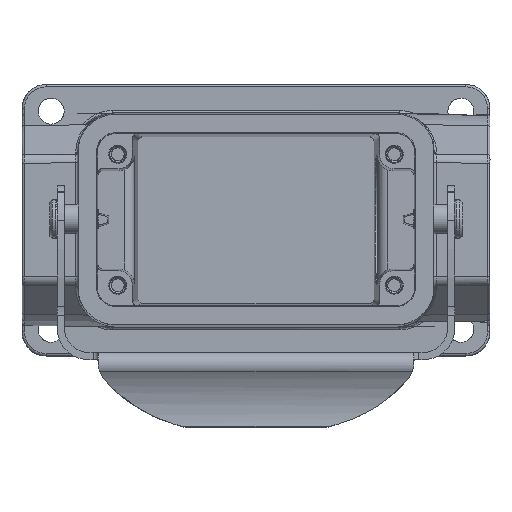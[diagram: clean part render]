
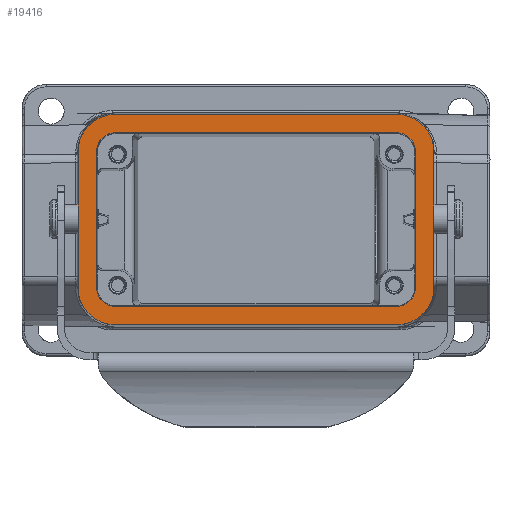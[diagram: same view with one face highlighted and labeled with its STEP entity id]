
A CAD part, top view. The second image highlights one B-rep face of the part: STEP entity #19416.
In plain terms, the highlighted planar face has unit normal (0, 0, 1).
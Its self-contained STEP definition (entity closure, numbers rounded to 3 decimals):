
#21 = DIRECTION ( 'NONE',  ( 0., 0., -1. ) ) ;
#239 = DIRECTION ( 'NONE',  ( 1., 0., 0. ) ) ;
#307 = ORIENTED_EDGE ( 'NONE', *, *, #10095, .T. ) ;
#401 = VECTOR ( 'NONE', #7460, 1000. ) ;
#400 = DIRECTION ( 'NONE',  ( 1., 0., 0. ) ) ;
#457 = DIRECTION ( 'NONE',  ( 0., -1., 0. ) ) ;
#578 = CARTESIAN_POINT ( 'NONE',  ( -32.9, 14., 27.7 ) ) ;
#580 = ORIENTED_EDGE ( 'NONE', *, *, #17037, .T. ) ;
#594 = DIRECTION ( 'NONE',  ( 0., 0., 1. ) ) ;
#649 = VERTEX_POINT ( 'NONE', #4194 ) ;
#702 = ORIENTED_EDGE ( 'NONE', *, *, #3819, .T. ) ;
#849 = LINE ( 'NONE', #3367, #9750 ) ;
#1048 = DIRECTION ( 'NONE',  ( 0., 1., 0. ) ) ;
#1149 = DIRECTION ( 'NONE',  ( 0., 0., -1. ) ) ;
#1273 = FACE_BOUND ( 'NONE', #5963, .T. ) ;
#1794 = CIRCLE ( 'NONE', #12595, 7.7 ) ;
#1875 = EDGE_CURVE ( 'NONE', #7598, #15227, #2472, .T. ) ;
#2100 = EDGE_CURVE ( 'NONE', #14176, #649, #5177, .T. ) ;
#2171 = VERTEX_POINT ( 'NONE', #16543 ) ;
#2266 = CARTESIAN_POINT ( 'NONE',  ( -29., -21.7, 27.7 ) ) ;
#2443 = CARTESIAN_POINT ( 'NONE',  ( 29., -17.9, 27.7 ) ) ;
#2472 = CIRCLE ( 'NONE', #12401, 7.7 ) ;
#2716 = VERTEX_POINT ( 'NONE', #16915 ) ;
#2816 = ORIENTED_EDGE ( 'NONE', *, *, #9310, .T. ) ;
#2993 = CARTESIAN_POINT ( 'NONE',  ( 29., 21.7, 27.7 ) ) ;
#3105 = CARTESIAN_POINT ( 'NONE',  ( -29., 21.7, 27.7 ) ) ;
#3367 = CARTESIAN_POINT ( 'NONE',  ( 36.7, 14., 27.7 ) ) ;
#3819 = EDGE_CURVE ( 'NONE', #18376, #16583, #6890, .T. ) ;
#4194 = CARTESIAN_POINT ( 'NONE',  ( 36.7, -14., 27.7 ) ) ;
#4546 = VERTEX_POINT ( 'NONE', #2443 ) ;
#4582 = ORIENTED_EDGE ( 'NONE', *, *, #19819, .T. ) ;
#4809 = AXIS2_PLACEMENT_3D ( 'NONE', #9312, #21, #18960 ) ;
#5016 = CARTESIAN_POINT ( 'NONE',  ( 29., 17.9, 27.7 ) ) ;
#5177 = CIRCLE ( 'NONE', #5614, 7.7 ) ;
#5366 = ORIENTED_EDGE ( 'NONE', *, *, #12666, .T. ) ;
#5377 = CARTESIAN_POINT ( 'NONE',  ( -32.9, -14., 27.7 ) ) ;
#5426 = VERTEX_POINT ( 'NONE', #2993 ) ;
#5511 = LINE ( 'NONE', #578, #12472 ) ;
#5614 = AXIS2_PLACEMENT_3D ( 'NONE', #10074, #594, #6941 ) ;
#5769 = CARTESIAN_POINT ( 'NONE',  ( 29., -14., 27.7 ) ) ;
#5963 = EDGE_LOOP ( 'NONE', ( #307, #702, #580, #4582, #12267, #10540, #19870, #10389 ) ) ;
#6123 = LINE ( 'NONE', #8409, #11345 ) ;
#6410 = LINE ( 'NONE', #17324, #15150 ) ;
#6583 = ORIENTED_EDGE ( 'NONE', *, *, #12189, .T. ) ;
#6662 = VERTEX_POINT ( 'NONE', #11335 ) ;
#6713 = DIRECTION ( 'NONE',  ( 0., 0., -1. ) ) ;
#6759 = ORIENTED_EDGE ( 'NONE', *, *, #2100, .T. ) ;
#6787 = VECTOR ( 'NONE', #457, 1000. ) ;
#6890 = CIRCLE ( 'NONE', #4809, 3.9 ) ;
#6941 = DIRECTION ( 'NONE',  ( 1., 0., 0. ) ) ;
#6977 = CARTESIAN_POINT ( 'NONE',  ( -29., -17.9, 27.7 ) ) ;
#7054 = EDGE_CURVE ( 'NONE', #6662, #4546, #20542, .T. ) ;
#7082 = ORIENTED_EDGE ( 'NONE', *, *, #16364, .T. ) ;
#7186 = CARTESIAN_POINT ( 'NONE',  ( 32.9, 14., 27.7 ) ) ;
#7344 = VERTEX_POINT ( 'NONE', #11590 ) ;
#7398 = DIRECTION ( 'NONE',  ( 1., 0., 0. ) ) ;
#7460 = DIRECTION ( 'NONE',  ( 0., -1., 0. ) ) ;
#7474 = DIRECTION ( 'NONE',  ( 0., 0., -1. ) ) ;
#7598 = VERTEX_POINT ( 'NONE', #13606 ) ;
#7678 = CARTESIAN_POINT ( 'NONE',  ( 29., 14., 27.7 ) ) ;
#7823 = AXIS2_PLACEMENT_3D ( 'NONE', #7678, #7474, #7398 ) ;
#7871 = DIRECTION ( 'NONE',  ( 0., 0., 1. ) ) ;
#8212 = CARTESIAN_POINT ( 'NONE',  ( 29., 14., 27.7 ) ) ;
#8409 = CARTESIAN_POINT ( 'NONE',  ( -33.3, -17.9, 27.7 ) ) ;
#8945 = CIRCLE ( 'NONE', #10887, 3.9 ) ;
#9151 = EDGE_CURVE ( 'NONE', #2716, #12490, #6410, .T. ) ;
#9310 = EDGE_CURVE ( 'NONE', #5426, #9685, #14406, .T. ) ;
#9312 = CARTESIAN_POINT ( 'NONE',  ( -29., -14., 27.7 ) ) ;
#9685 = VERTEX_POINT ( 'NONE', #3105 ) ;
#9717 = CARTESIAN_POINT ( 'NONE',  ( -29., 14., 27.7 ) ) ;
#9750 = VECTOR ( 'NONE', #14433, 1000. ) ;
#9923 = CARTESIAN_POINT ( 'NONE',  ( 32.9, 14., 27.7 ) ) ;
#10074 = CARTESIAN_POINT ( 'NONE',  ( 29., -14., 27.7 ) ) ;
#10095 = EDGE_CURVE ( 'NONE', #4546, #18376, #6123, .T. ) ;
#10260 = EDGE_CURVE ( 'NONE', #9685, #18873, #15091, .T. ) ;
#10389 = ORIENTED_EDGE ( 'NONE', *, *, #7054, .T. ) ;
#10540 = ORIENTED_EDGE ( 'NONE', *, *, #18620, .T. ) ;
#10771 = ORIENTED_EDGE ( 'NONE', *, *, #1875, .T. ) ;
#10887 = AXIS2_PLACEMENT_3D ( 'NONE', #9717, #6713, #239 ) ;
#11335 = CARTESIAN_POINT ( 'NONE',  ( 32.9, -14., 27.7 ) ) ;
#11345 = VECTOR ( 'NONE', #11739, 1000. ) ;
#11590 = CARTESIAN_POINT ( 'NONE',  ( -32.9, 14., 27.7 ) ) ;
#11609 = DIRECTION ( 'NONE',  ( 0., 0., 1. ) ) ;
#11657 = VECTOR ( 'NONE', #11756, 1000. ) ;
#11739 = DIRECTION ( 'NONE',  ( -1., 0., 0. ) ) ;
#11756 = DIRECTION ( 'NONE',  ( -1., 0., 0. ) ) ;
#12107 = ORIENTED_EDGE ( 'NONE', *, *, #10260, .T. ) ;
#12131 = VERTEX_POINT ( 'NONE', #7186 ) ;
#12189 = EDGE_CURVE ( 'NONE', #15227, #14176, #17512, .T. ) ;
#12267 = ORIENTED_EDGE ( 'NONE', *, *, #9151, .T. ) ;
#12381 = CARTESIAN_POINT ( 'NONE',  ( -33.3, -21.7, 27.7 ) ) ;
#12401 = AXIS2_PLACEMENT_3D ( 'NONE', #12516, #7871, #17164 ) ;
#12472 = VECTOR ( 'NONE', #1048, 1000. ) ;
#12482 = DIRECTION ( 'NONE',  ( 1., 0., 0. ) ) ;
#12490 = VERTEX_POINT ( 'NONE', #5016 ) ;
#12516 = CARTESIAN_POINT ( 'NONE',  ( -29., -14., 27.7 ) ) ;
#12595 = AXIS2_PLACEMENT_3D ( 'NONE', #8212, #11609, #400 ) ;
#12666 = EDGE_CURVE ( 'NONE', #18873, #7598, #17260, .T. ) ;
#13158 = CARTESIAN_POINT ( 'NONE',  ( -36.7, 14., 27.7 ) ) ;
#13195 = CIRCLE ( 'NONE', #7823, 3.9 ) ;
#13493 = EDGE_CURVE ( 'NONE', #12131, #6662, #15264, .T. ) ;
#13558 = DIRECTION ( 'NONE',  ( 1., 0., 0. ) ) ;
#13606 = CARTESIAN_POINT ( 'NONE',  ( -36.7, -14., 27.7 ) ) ;
#14086 = DIRECTION ( 'NONE',  ( 1., 0., 0. ) ) ;
#14176 = VERTEX_POINT ( 'NONE', #18443 ) ;
#14406 = LINE ( 'NONE', #18079, #11657 ) ;
#14433 = DIRECTION ( 'NONE',  ( 0., 1., 0. ) ) ;
#15090 = DIRECTION ( 'NONE',  ( 0., 0., 1. ) ) ;
#15091 = CIRCLE ( 'NONE', #17387, 7.7 ) ;
#15150 = VECTOR ( 'NONE', #14086, 1000. ) ;
#15227 = VERTEX_POINT ( 'NONE', #2266 ) ;
#15264 = LINE ( 'NONE', #9923, #6787 ) ;
#15378 = DIRECTION ( 'NONE',  ( 1., 0., 0. ) ) ;
#15447 = CARTESIAN_POINT ( 'NONE',  ( -36.7, 14., 27.7 ) ) ;
#15574 = EDGE_LOOP ( 'NONE', ( #7082, #18806, #2816, #12107, #5366, #10771, #6583, #6759 ) ) ;
#16028 = VECTOR ( 'NONE', #15378, 1000. ) ;
#16364 = EDGE_CURVE ( 'NONE', #649, #2171, #849, .T. ) ;
#16543 = CARTESIAN_POINT ( 'NONE',  ( 36.7, 14., 27.7 ) ) ;
#16583 = VERTEX_POINT ( 'NONE', #5377 ) ;
#16857 = AXIS2_PLACEMENT_3D ( 'NONE', #5769, #1149, #16892 ) ;
#16892 = DIRECTION ( 'NONE',  ( 1., 0., 0. ) ) ;
#16915 = CARTESIAN_POINT ( 'NONE',  ( -29., 17.9, 27.7 ) ) ;
#17037 = EDGE_CURVE ( 'NONE', #16583, #7344, #5511, .T. ) ;
#17164 = DIRECTION ( 'NONE',  ( 1., 0., 0. ) ) ;
#17260 = LINE ( 'NONE', #15447, #401 ) ;
#17324 = CARTESIAN_POINT ( 'NONE',  ( -33.3, 17.9, 27.7 ) ) ;
#17387 = AXIS2_PLACEMENT_3D ( 'NONE', #19818, #15090, #13558 ) ;
#17512 = LINE ( 'NONE', #12381, #16028 ) ;
#17520 = EDGE_CURVE ( 'NONE', #2171, #5426, #1794, .T. ) ;
#17641 = FACE_OUTER_BOUND ( 'NONE', #15574, .T. ) ;
#18079 = CARTESIAN_POINT ( 'NONE',  ( -33.3, 21.7, 27.7 ) ) ;
#18376 = VERTEX_POINT ( 'NONE', #6977 ) ;
#18443 = CARTESIAN_POINT ( 'NONE',  ( 29., -21.7, 27.7 ) ) ;
#18620 = EDGE_CURVE ( 'NONE', #12490, #12131, #13195, .T. ) ;
#18671 = PLANE ( 'NONE',  #19959 ) ;
#18806 = ORIENTED_EDGE ( 'NONE', *, *, #17520, .T. ) ;
#18873 = VERTEX_POINT ( 'NONE', #13158 ) ;
#18883 = DIRECTION ( 'NONE',  ( 0., 0., 1. ) ) ;
#18944 = CARTESIAN_POINT ( 'NONE',  ( -33.3, 14., 27.7 ) ) ;
#18960 = DIRECTION ( 'NONE',  ( 1., 0., 0. ) ) ;
#19416 = ADVANCED_FACE ( 'NONE', ( #17641, #1273 ), #18671, .T. ) ;
#19818 = CARTESIAN_POINT ( 'NONE',  ( -29., 14., 27.7 ) ) ;
#19819 = EDGE_CURVE ( 'NONE', #7344, #2716, #8945, .T. ) ;
#19870 = ORIENTED_EDGE ( 'NONE', *, *, #13493, .T. ) ;
#19959 = AXIS2_PLACEMENT_3D ( 'NONE', #18944, #18883, #12482 ) ;
#20542 = CIRCLE ( 'NONE', #16857, 3.9 ) ;
